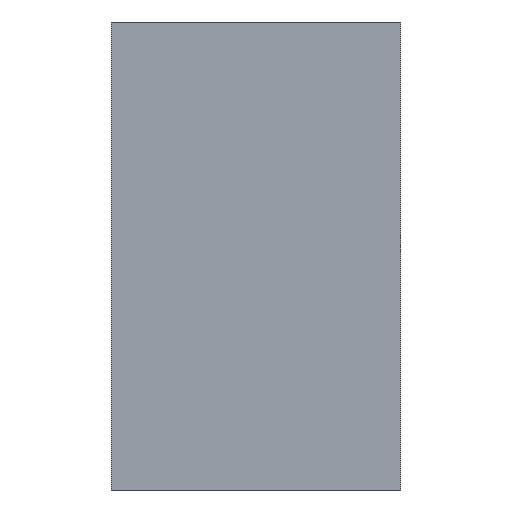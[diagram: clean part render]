
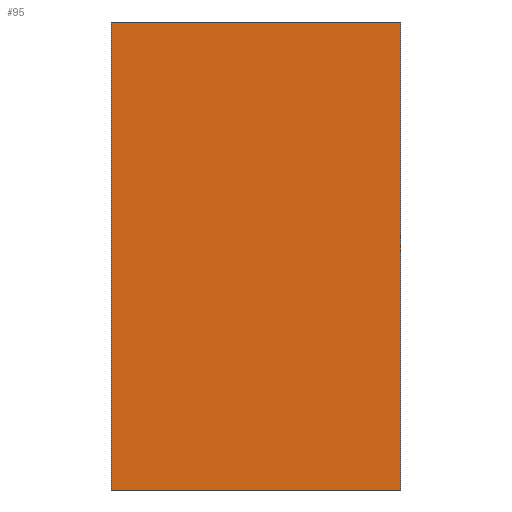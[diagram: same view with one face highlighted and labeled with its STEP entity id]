
A CAD part, front view. The second image highlights one B-rep face of the part: STEP entity #95.
In plain terms, the highlighted planar face has unit normal (0, -1, 0).
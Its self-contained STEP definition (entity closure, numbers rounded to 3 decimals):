
#4 = CARTESIAN_POINT ( 'NONE',  ( -122., 0., -197. ) ) ;
#6 = CARTESIAN_POINT ( 'NONE',  ( -122., 0., 197. ) ) ;
#12 = EDGE_CURVE ( 'NONE', #53, #26, #41, .T. ) ;
#13 = ORIENTED_EDGE ( 'NONE', *, *, #129, .F. ) ;
#20 = DIRECTION ( 'NONE',  ( -1., 0., 0. ) ) ;
#21 = VECTOR ( 'NONE', #20, 1000. ) ;
#22 = DIRECTION ( 'NONE',  ( 0., 0., -1. ) ) ;
#24 = AXIS2_PLACEMENT_3D ( 'NONE', #152, #116, #186 ) ;
#26 = VERTEX_POINT ( 'NONE', #147 ) ;
#32 = CARTESIAN_POINT ( 'NONE',  ( 122., 0., -197. ) ) ;
#41 = LINE ( 'NONE', #4, #21 ) ;
#53 = VERTEX_POINT ( 'NONE', #32 ) ;
#59 = CARTESIAN_POINT ( 'NONE',  ( -122., 0., 197. ) ) ;
#66 = LINE ( 'NONE', #171, #144 ) ;
#74 = EDGE_CURVE ( 'NONE', #26, #139, #99, .T. ) ;
#92 = VECTOR ( 'NONE', #118, 1000. ) ;
#93 = EDGE_LOOP ( 'NONE', ( #13, #197, #174, #185 ) ) ;
#95 = ADVANCED_FACE ( 'NONE', ( #192 ), #130, .T. ) ;
#99 = LINE ( 'NONE', #169, #151 ) ;
#116 = DIRECTION ( 'NONE',  ( 0., -1., 0. ) ) ;
#118 = DIRECTION ( 'NONE',  ( 1., 0., 0. ) ) ;
#129 = EDGE_CURVE ( 'NONE', #145, #53, #66, .T. ) ;
#130 = PLANE ( 'NONE',  #24 ) ;
#131 = CARTESIAN_POINT ( 'NONE',  ( 122., 0., 197. ) ) ;
#138 = LINE ( 'NONE', #59, #92 ) ;
#139 = VERTEX_POINT ( 'NONE', #6 ) ;
#144 = VECTOR ( 'NONE', #22, 1000. ) ;
#145 = VERTEX_POINT ( 'NONE', #131 ) ;
#147 = CARTESIAN_POINT ( 'NONE',  ( -122., 0., -197. ) ) ;
#151 = VECTOR ( 'NONE', #195, 1000. ) ;
#152 = CARTESIAN_POINT ( 'NONE',  ( 0., 0., 0. ) ) ;
#169 = CARTESIAN_POINT ( 'NONE',  ( -122., 0., 197. ) ) ;
#171 = CARTESIAN_POINT ( 'NONE',  ( 122., 0., 197. ) ) ;
#174 = ORIENTED_EDGE ( 'NONE', *, *, #74, .F. ) ;
#185 = ORIENTED_EDGE ( 'NONE', *, *, #12, .F. ) ;
#186 = DIRECTION ( 'NONE',  ( 0., 0., -1. ) ) ;
#191 = EDGE_CURVE ( 'NONE', #139, #145, #138, .T. ) ;
#192 = FACE_OUTER_BOUND ( 'NONE', #93, .T. ) ;
#195 = DIRECTION ( 'NONE',  ( 0., 0., 1. ) ) ;
#197 = ORIENTED_EDGE ( 'NONE', *, *, #191, .F. ) ;
